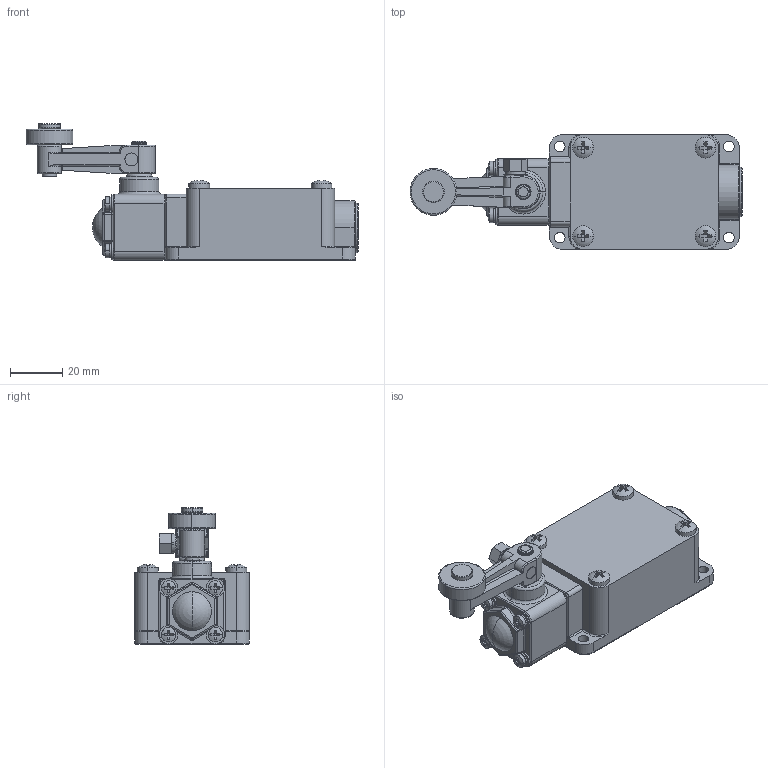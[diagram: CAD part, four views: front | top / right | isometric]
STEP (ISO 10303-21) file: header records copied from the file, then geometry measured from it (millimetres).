
FILE_DESCRIPTION((''),'2;1');
FILE_NAME('123456','2025-04-30T',('qinxiong.ji'),(''),'PRO/ENGINEER BY PARAMETRIC TECHNOLOGY CORPORATION, 2015440','PRO/ENGINEER BY PARAMETRIC TECHNOLOGY CORPORATION, 2015440','');
FILE_SCHEMA(('CONFIG_CONTROL_DESIGN'));
Length unit declared in the file: millimetre
Products named in the file (1): 123456
Bounding box: 127.5 x 44 x 52.6 mm (x, y, z)
Volume: 98180.6 mm3; surface area: 22406.7 mm2
Topology: 2 solids, 8 shells, 619 faces, 1520 edges, 939 vertices
Faces by surface type: plane 304, cylinder 181, torus 75, sphere 28, cone 27, bspline 4
Entity records: 19974 total; most frequent: CARTESIAN_POINT 5120, DIRECTION 3258, ORIENTED_EDGE 3032, EDGE_CURVE 1516, AXIS2_PLACEMENT_3D 1285, VERTEX_POINT 939, VECTOR 688, LINE 688
